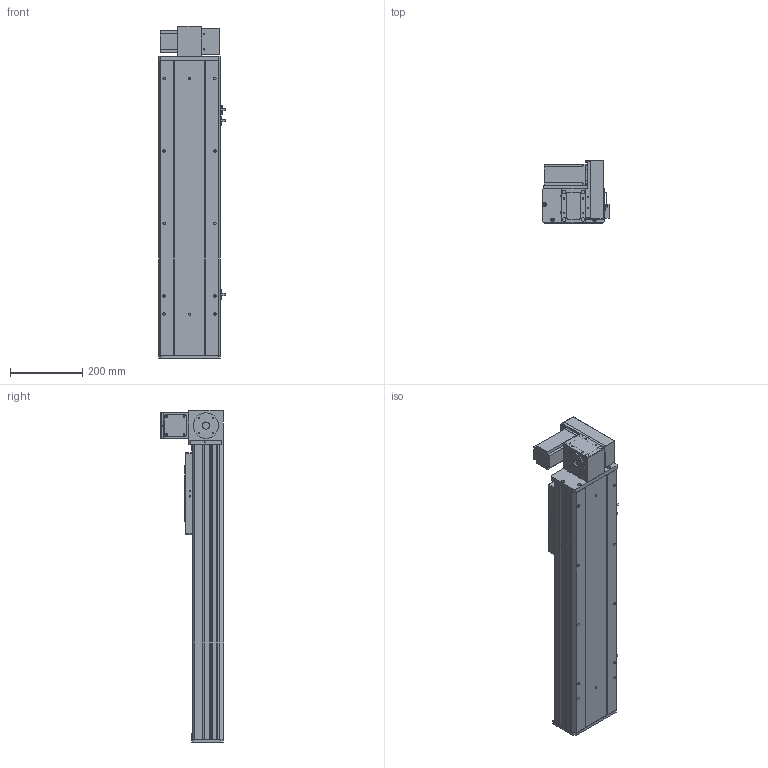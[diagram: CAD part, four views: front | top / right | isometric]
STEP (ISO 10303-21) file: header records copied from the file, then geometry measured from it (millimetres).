
FILE_DESCRIPTION (( 'STEP AP203' ), '1' );
FILE_NAME ('Y170CB-D105-S500-UR-P400W.STEP', '2020-02-20T03:47:13', ( '微软用户' ), ( '微软中国' ), 'SwSTEP 2.0', 'SolidWorks 2017', '' );
FILE_SCHEMA (( 'CONFIG_CONTROL_DESIGN' ));
Length unit declared in the file: millimetre
Products named in the file (18): 70CB-詩湍--; san松下电机400不带刹车----; Y100-135俋离換覜ん--; 70CB-掛极-; Y170CB-陔俋离換覜結え---; --70CB --喘謫眊楊擘啣-; Y1埴倛裔; 70CB-耜裔啣-; 17B-耜蚾蟀諉啣----; 70C--詩湍揤踡え-; 00B-俋欶BM--163; 70CB--耜裔; 70B喘謫眊----; 70C-雄赽釱-奻-; B-源倛裔啣; Y170CB-D105-S500-UR-P400W; 0C--雄赽釱俋欶-170; 0B-萇儂楊擘啣
Assembly tree (21 placements, depth 2):
  Y170CB-D105-S500-UR-P400W
    B-源倛裔啣
    0B-萇儂楊擘啣
    san松下电机400不带刹车----
    70CB-掛极-
    --70CB --喘謫眊楊擘啣-
    70CB-耜裔啣-  x2
    70C--詩湍揤踡え-  x2
    70CB--耜裔
    70C-雄赽釱-奻-
    0C--雄赽釱俋欶-170
    70CB-詩湍--
    Y100-135俋离換覜ん--  x3
    Y170CB-陔俋离換覜結え---
    Y1埴倛裔
    17B-耜蚾蟀諉啣----
    00B-俋欶BM--163
    70B喘謫眊----
Bounding box: 183.5 x 174 x 916 mm (x, y, z)
Volume: 4570245 mm3; surface area: 1627194 mm2
Topology: 21 solids, 21 shells, 991 faces, 2645 edges, 1754 vertices
Faces by surface type: cylinder 505, plane 462, cone 24
Entity records: 31452 total; most frequent: CARTESIAN_POINT 5736, DIRECTION 5114, ORIENTED_EDGE 4772, EDGE_CURVE 2386, AXIS2_PLACEMENT_3D 1868, VERTEX_POINT 1584, VECTOR 1378, LINE 1378
